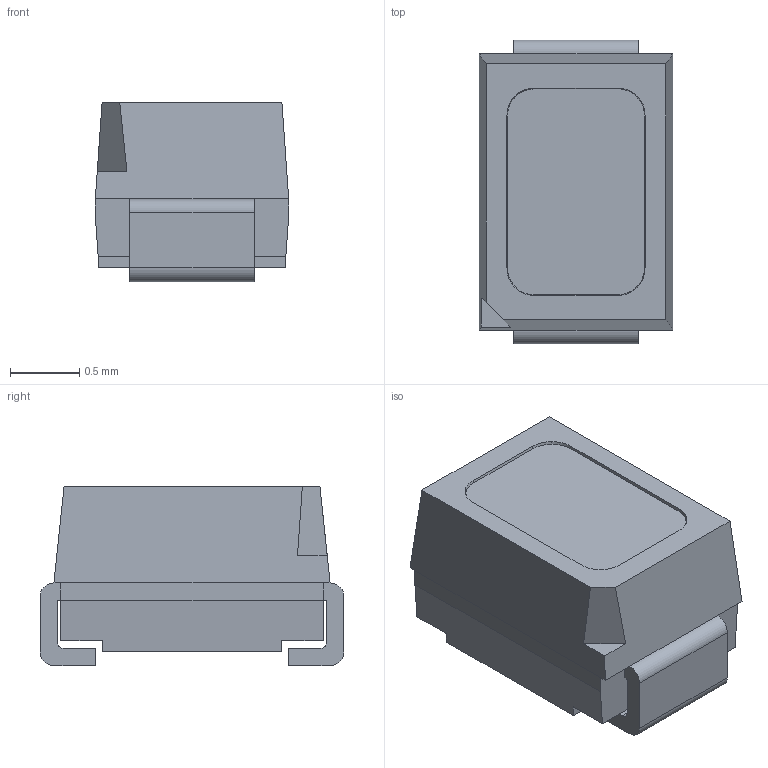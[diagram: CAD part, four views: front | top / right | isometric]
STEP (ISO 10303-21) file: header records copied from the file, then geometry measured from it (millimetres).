
FILE_DESCRIPTION(('STEP AP203'),'1');
FILE_NAME('//domi12/Dept/RnD/FAE/3D Model/Drawing/DNZB-LJG/DNZB-LJG_291019.stp','2020-02-10T02:32:36',(' '),(' '),'Spatial InterOp 3D',' ',' ');
FILE_SCHEMA(('CONFIG_CONTROL_DESIGN'));
Length unit declared in the file: millimetre
Products named in the file (1): 1
Bounding box: 1.4 x 2.2 x 1.3 mm (x, y, z)
Volume: 3.2 mm3; surface area: 16.4 mm2
Topology: 1 solids, 1 shells, 65 faces, 172 edges, 112 vertices
Faces by surface type: plane 45, cylinder 16, cone 4
Entity records: 2046 total; most frequent: CARTESIAN_POINT 350, DIRECTION 344, ORIENTED_EDGE 344, EDGE_CURVE 172, LINE 132, VECTOR 132, VERTEX_POINT 112, AXIS2_PLACEMENT_3D 106
